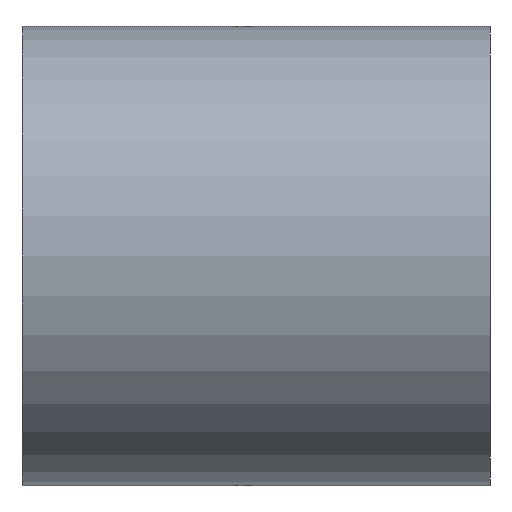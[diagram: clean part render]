
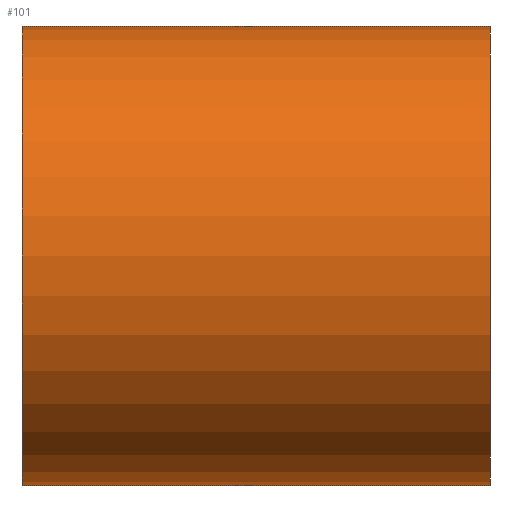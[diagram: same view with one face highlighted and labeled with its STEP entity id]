
A CAD part, front view. The second image highlights one B-rep face of the part: STEP entity #101.
In plain terms, the highlighted cylindrical face has radius 52.5 mm (diameter 105 mm), a full revolution.
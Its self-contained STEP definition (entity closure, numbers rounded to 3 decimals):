
#25=FACE_BOUND('',#48,.T.);
#33=FACE_OUTER_BOUND('',#47,.T.);
#47=EDGE_LOOP('',(#87));
#48=EDGE_LOOP('',(#88));
#57=CIRCLE('',#117,52.5);
#58=CIRCLE('',#119,52.5);
#65=VERTEX_POINT('',#174);
#66=VERTEX_POINT('',#177);
#73=EDGE_CURVE('',#65,#65,#57,.T.);
#74=EDGE_CURVE('',#66,#66,#58,.T.);
#87=ORIENTED_EDGE('',*,*,#73,.F.);
#88=ORIENTED_EDGE('',*,*,#74,.F.);
#94=CYLINDRICAL_SURFACE('',#118,52.5);
#101=ADVANCED_FACE('',(#33,#25),#94,.T.);
#117=AXIS2_PLACEMENT_3D('',#175,#147,#148);
#118=AXIS2_PLACEMENT_3D('',#176,#149,#150);
#119=AXIS2_PLACEMENT_3D('',#178,#151,#152);
#147=DIRECTION('center_axis',(-1.,0.,0.));
#148=DIRECTION('ref_axis',(0.,-1.,0.));
#149=DIRECTION('center_axis',(1.,0.,0.));
#150=DIRECTION('ref_axis',(0.,-1.,0.));
#151=DIRECTION('center_axis',(1.,0.,0.));
#152=DIRECTION('ref_axis',(0.,-1.,0.));
#174=CARTESIAN_POINT('',(-53.5,52.5,0.));
#175=CARTESIAN_POINT('Origin',(-53.5,0.,0.));
#176=CARTESIAN_POINT('Origin',(0.,0.,0.));
#177=CARTESIAN_POINT('',(53.5,52.5,0.));
#178=CARTESIAN_POINT('Origin',(53.5,0.,0.));
